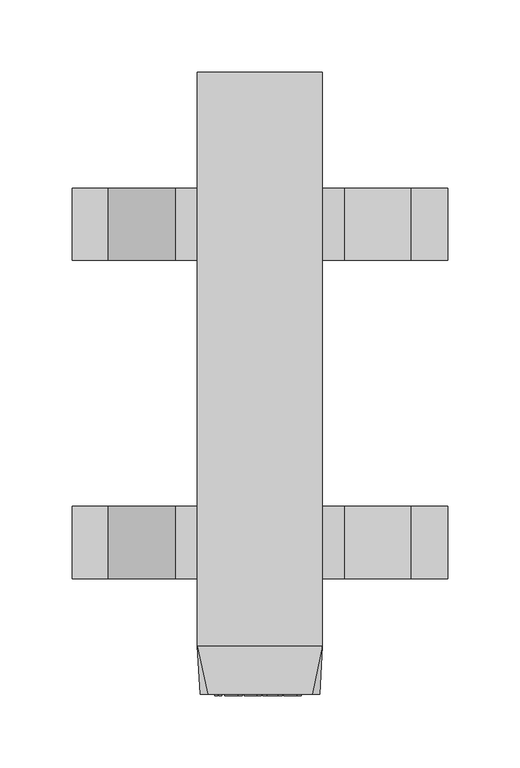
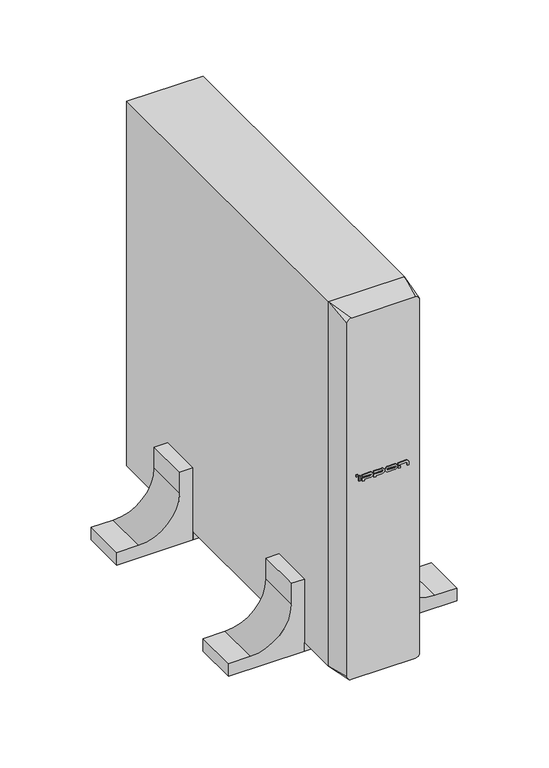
"""IFC4 building model written with IfcOpenShell, lengths in millimetres: proxy geometry, IPPON_EBM_Smart Winner II_1500_2000_2000E_3000ВА : EBM Smart Winner II 1500 ВА."""

from ifc_helpers import new_model, si_unit, point, frame, frame_2d, origin, origin_with_axes, place, context, project, spatial, polyline, circle_curve, trimmed, segment, composite_curve, outline, extrude, source, transform, mapped, element, save
from ifc_brep_helpers import plane_surface, spline_surface, advanced_brep


def electrical_equipment_8a4f9bc7(model_context):
    return source(origin(), model_context, "Body", "SolidModel", [
        extrude(outline(polyline([(-29.1718133, -1.0), (-31.1718133, -1.0), (-31.1718133, 0.0), (-29.1718133, 0.0), (-29.1718133, -1.0)])), frame((0.0, 0.0, 253.8445835), z_axis=(0.0, 0.0, 1.0), x_axis=(1.0, 0.0, 0.0)), (0.0, 0.0, 1.0), 2.3),
        extrude(outline(polyline([(18.6035474, -1.0), (16.6035474, -1.0), (16.6035474, 0.0), (18.6035474, 0.0), (18.6035474, -1.0)])), frame((0.0, 0.0, 247.8445835), z_axis=(0.0, 0.0, 1.0), x_axis=(1.0, 0.0, 0.0)), (0.0, 0.0, 1.0), 2.2268231),
        extrude(outline(polyline([(-26.438565, -1.0), (-28.4833324, -1.0), (-28.4833324, 0.0), (-26.438565, 0.0), (-26.438565, -1.0)])), frame((0.0, 0.0, 247.8445835), z_axis=(0.0, 0.0, 1.0), x_axis=(1.0, 0.0, 0.0)), (0.0, 0.0, 1.0), 6.0),
        extrude(outline(composite_curve([segment(polyline([(251.5821435, -24.2241109), (251.5821435, -14.9923536)]), True, "CONTINUOUS"), segment(trimmed(circle_curve(frame_2d((250.7256642, -14.9923536)), 0.8564793), [point((251.5821435, -14.9923536))], [point((249.8691849, -14.9923536))], True, "CARTESIAN"), True, "CONTINUOUS"), segment(polyline([(249.8691849, -14.9923536), (249.8691849, -24.2241109), (246.3786803, -24.2241109), (246.3786803, -22.2241109), (247.8445835, -22.2241109), (247.8445835, -15.1486036)]), True, "CONTINUOUS"), segment(trimmed(circle_curve(frame_2d((250.8445835, -15.1486036)), 3.0), [point((247.8445835, -15.1486036))], [point((253.8445835, -15.1486036))], False, "CARTESIAN"), True, "CONTINUOUS"), segment(polyline([(253.8445835, -15.1486036), (253.8445835, -24.2241109), (251.5821435, -24.2241109)]), True, "CONTINUOUS")], self_intersect=False)), frame((0.0, -1.0, 0.0), z_axis=(0.0, 1.0, 0.0), x_axis=(0.0, 0.0, 1.0)), (0.0, 0.0, 1.0), 1.0),
        extrude(outline(composite_curve([segment(polyline([(251.5821435, -11.0171091), (251.5821435, -1.7853518)]), True, "CONTINUOUS"), segment(trimmed(circle_curve(frame_2d((250.7256642, -1.7853518)), 0.8564793), [point((251.5821435, -1.7853518))], [point((249.8691849, -1.7853518))], True, "CARTESIAN"), True, "CONTINUOUS"), segment(polyline([(249.8691849, -1.7853518), (249.8691849, -11.0171091), (246.3786803, -11.0171091), (246.3786803, -9.0171091), (247.8445835, -9.0171091), (247.8445835, -1.9416018)]), True, "CONTINUOUS"), segment(trimmed(circle_curve(frame_2d((250.8445835, -1.9416018)), 3.0), [point((247.8445835, -1.9416018))], [point((253.8445835, -1.9416018))], False, "CARTESIAN"), True, "CONTINUOUS"), segment(polyline([(253.8445835, -1.9416018), (253.8445835, -11.0171091), (251.5821435, -11.0171091)]), True, "CONTINUOUS")], self_intersect=False)), frame((0.0, -1.0, 0.0), z_axis=(0.0, 1.0, 0.0), x_axis=(0.0, 0.0, 1.0)), (0.0, 0.0, 1.0), 1.0),
        extrude(outline(composite_curve([segment(trimmed(circle_curve(frame_2d((250.8445835, 12.558657)), 3.0), [point((247.8445835, 12.558657))], [point((253.8445835, 12.558657))], False, "CARTESIAN"), True, "CONTINUOUS"), segment(polyline([(253.8445835, 12.558657), (253.8445835, 4.958657)]), True, "CONTINUOUS"), segment(trimmed(circle_curve(frame_2d((250.8445835, 4.958657)), 3.0), [point((253.8445835, 4.958657))], [point((247.8445835, 4.958657))], False, "CARTESIAN"), True, "CONTINUOUS"), segment(polyline([(247.8445835, 4.958657), (247.8445835, 12.558657)]), True, "CONTINUOUS")], self_intersect=False), holes=[composite_curve([segment(polyline([(249.8691849, 12.714907), (249.8691849, 4.802407)]), True, "CONTINUOUS"), segment(trimmed(circle_curve(frame_2d((250.7256642, 4.802407)), 0.8564793), [point((249.8691849, 4.802407))], [point((251.5821435, 4.802407))], True, "CARTESIAN"), True, "CONTINUOUS"), segment(polyline([(251.5821435, 4.802407), (251.5821435, 12.714907)]), True, "CONTINUOUS"), segment(trimmed(circle_curve(frame_2d((250.7256642, 12.714907)), 0.8564793), [point((251.5821435, 12.714907))], [point((249.8691849, 12.714907))], True, "CARTESIAN"), True, "CONTINUOUS")], self_intersect=False)]), frame((0.0, -1.0, 0.0), z_axis=(0.0, 1.0, 0.0), x_axis=(0.0, 0.0, 1.0)), (0.0, 0.0, 1.0), 1.0),
        extrude(outline(composite_curve([segment(polyline([(251.5821435, 16.6035474), (251.5821435, 25.8353046)]), True, "CONTINUOUS"), segment(trimmed(circle_curve(frame_2d((250.7256642, 25.8353046)), 0.8564793), [point((251.5821435, 25.8353046))], [point((250.7256642, 26.6917839))], True, "CARTESIAN"), True, "CONTINUOUS"), segment(polyline([(250.7256642, 26.6917839), (247.8445835, 26.6917839), (247.8445835, 28.6317921), (251.375, 28.6317921)]), True, "CONTINUOUS"), segment(trimmed(circle_curve(frame_2d((250.8445835, 25.6790546)), 3.0), [point((251.375, 28.6317921))], [point((253.8445835, 25.6790546))], False, "CARTESIAN"), True, "CONTINUOUS"), segment(polyline([(253.8445835, 25.6790546), (253.8445835, 16.6035474), (251.5821435, 16.6035474)]), True, "CONTINUOUS")], self_intersect=False)), frame((0.0, -1.0, 0.0), z_axis=(0.0, 1.0, 0.0), x_axis=(0.0, 0.0, 1.0)), (0.0, 0.0, 1.0), 1.0),
        extrude(outline(polyline([(-43.25, 350.0), (43.25, 350.0), (43.25, 300.0), (-43.25, 300.0), (-43.25, 350.0)])), origin_with_axes(), (0.0, 0.0, 1.0), 10.0),
        extrude(outline(polyline([(43.25, 80.0), (-43.25, 80.0), (-43.25, 130.0), (43.25, 130.0), (43.25, 80.0)])), origin_with_axes(), (0.0, 0.0, 1.0), 10.0),
        extrude(outline(composite_curve([segment(polyline([(0.0, -43.25), (86.5, -43.25), (86.5, -58.25), (61.5, -58.25)]), True, "CONTINUOUS"), segment(trimmed(circle_curve(frame_2d((61.5, -104.75)), 46.5), [point((61.5, -58.25))], [point((15.0, -104.75))], True, "CARTESIAN"), True, "CONTINUOUS"), segment(polyline([(15.0, -104.75), (15.0, -129.75), (0.0, -129.75), (0.0, -43.25)]), True, "CONTINUOUS")], self_intersect=False)), frame((0.0, 300.0, 0.0), z_axis=(0.0, 1.0, 0.0), x_axis=(0.0, 0.0, 1.0)), (0.0, 0.0, 1.0), 50.0),
        extrude(outline(composite_curve([segment(polyline([(0.0, -43.25), (86.5, -43.25), (86.5, -58.25), (61.5, -58.25)]), True, "CONTINUOUS"), segment(trimmed(circle_curve(frame_2d((61.5, -104.75)), 46.5), [point((61.5, -58.25))], [point((15.0, -104.75))], True, "CARTESIAN"), True, "CONTINUOUS"), segment(polyline([(15.0, -104.75), (15.0, -129.75), (0.0, -129.75), (0.0, -43.25)]), True, "CONTINUOUS")], self_intersect=False)), frame((0.0, 80.0, 0.0), z_axis=(0.0, 1.0, 0.0), x_axis=(0.0, 0.0, 1.0)), (0.0, 0.0, 1.0), 50.0),
        extrude(outline(composite_curve([segment(polyline([(0.0, 129.75), (15.0, 129.75), (15.0, 104.75)]), True, "CONTINUOUS"), segment(trimmed(circle_curve(frame_2d((61.5, 104.75)), 46.5), [point((15.0, 104.75))], [point((61.5, 58.25))], True, "CARTESIAN"), True, "CONTINUOUS"), segment(polyline([(61.5, 58.25), (86.5, 58.25), (86.5, 43.25), (0.0, 43.25), (0.0, 129.75)]), True, "CONTINUOUS")], self_intersect=False)), frame((0.0, 300.0, 0.0), z_axis=(0.0, 1.0, 0.0), x_axis=(0.0, 0.0, 1.0)), (0.0, 0.0, 1.0), 50.0),
        extrude(outline(composite_curve([segment(polyline([(0.0, 43.25), (0.0, 129.75), (15.0, 129.75), (15.0, 104.75)]), True, "CONTINUOUS"), segment(trimmed(circle_curve(frame_2d((61.5, 104.75)), 46.5), [point((15.0, 104.75))], [point((61.5, 58.25))], True, "CARTESIAN"), True, "CONTINUOUS"), segment(polyline([(61.5, 58.25), (86.5, 58.25), (86.5, 43.25), (0.0, 43.25)]), True, "CONTINUOUS")], self_intersect=False)), frame((0.0, 80.0, 0.0), z_axis=(0.0, 1.0, 0.0), x_axis=(0.0, 0.0, 1.0)), (0.0, 0.0, 1.0), 50.0),
        advanced_brep(
        [(36.25, 0.0, 12.0), (41.25, 0.0, 17.0), (41.25, 0.0, 441.0), (36.25, 0.0, 446.0), (-36.25, 0.0, 446.0), (-41.25, 0.0, 441.0), (-41.25, 0.0, 17.0), (-36.25, 0.0, 12.0), (43.25, 33.0, 10.0), (-43.25, 33.0, 10.0), (-43.25, 33.0, 448.0), (43.25, 33.0, 448.0)],
        [
            (0, 1, circle_curve(frame((36.25, 0.0, 17.0), z_axis=(0.0, -1.0, 0.0), x_axis=(-1.0, 0.0, 0.0)), 5.0)),
            (1, 2),
            (2, 3, circle_curve(frame((36.25, 0.0, 441.0), z_axis=(0.0, -1.0, 0.0), x_axis=(-1.0, 0.0, 0.0)), 5.0)),
            (3, 4),
            (4, 5, circle_curve(frame((-36.25, 0.0, 441.0), z_axis=(0.0, -1.0, 0.0), x_axis=(-1.0, 0.0, 0.0)), 5.0)),
            (5, 6),
            (6, 7, circle_curve(frame((-36.25, 0.0, 17.0), z_axis=(0.0, -1.0, 0.0), x_axis=(-1.0, 0.0, 0.0)), 5.0)),
            (7, 0),
            (8, 9),
            (9, 10),
            (10, 11),
            (11, 8),
            (0, 8),
            (8, 1),
            (7, 9),
            (6, 9),
            (5, 10),
            (4, 10),
            (3, 11),
            (2, 11),
        ],
        [
            plane_surface(frame((0.0, 0.0, 229.0), z_axis=(0.0, -1.0, 0.0), x_axis=(1.0, 0.0, 0.0))),
            plane_surface(frame((0.0, 33.0, 229.0), z_axis=(0.0, 1.0, 0.0), x_axis=(1.0, 0.0, 0.0))),
            spline_surface(2, 1, [[(43.25, 33.0, 10.0), (36.25, 0.0, 12.0)], [(43.25, 33.0, 10.0), (41.25, 0.0, 12.0)], [(43.25, 33.0, 10.0), (41.25, 0.0, 17.0)]], [3, 3], [2, 2], [0.0, 1.0], [0.0, 1.0], weights=[[1.0, 1.0], [0.7071067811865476, 0.7071067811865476], [1.0, 1.0]]),
            plane_surface(frame((0.0, 33.0, 10.0), z_axis=(0.0, -0.060495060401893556, -0.9981684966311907), x_axis=(1.0, 0.0, 0.0))),
            spline_surface(2, 1, [[(-43.25, 33.0, 10.0), (-41.25, 0.0, 17.0)], [(-43.25, 33.0, 10.0), (-41.25, 0.0, 12.0)], [(-43.25, 33.0, 10.0), (-36.25, 0.0, 12.0)]], [3, 3], [2, 2], [0.0, 1.0], [0.0, 1.0], weights=[[1.0, 1.0], [0.7071067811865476, 0.7071067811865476], [1.0, 1.0]]),
            plane_surface(frame((-43.25, 33.0, 229.0), z_axis=(-0.998168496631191, -0.06049506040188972, 0.0), x_axis=(0.0, 0.0, -1.0))),
            spline_surface(2, 1, [[(-43.25, 33.0, 448.0), (-36.25, 0.0, 446.0)], [(-43.25, 33.0, 448.0), (-41.25, 0.0, 446.0)], [(-43.25, 33.0, 448.0), (-41.25, 0.0, 441.0)]], [3, 3], [2, 2], [0.0, 1.0], [0.0, 1.0], weights=[[1.0, 1.0], [0.7071067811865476, 0.7071067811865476], [1.0, 1.0]]),
            plane_surface(frame((0.0, 33.0, 448.0), z_axis=(0.0, -0.06049506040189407, 0.9981684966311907), x_axis=(-1.0, 0.0, 0.0))),
            spline_surface(2, 1, [[(43.25, 33.0, 448.0), (41.25, 0.0, 441.0)], [(43.25, 33.0, 448.0), (41.25, 0.0, 446.0)], [(43.25, 33.0, 448.0), (36.25, 0.0, 446.0)]], [3, 3], [2, 2], [0.0, 1.0], [0.0, 1.0], weights=[[1.0, 1.0], [0.7071067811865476, 0.7071067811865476], [1.0, 1.0]]),
            plane_surface(frame((43.25, 33.0, 229.0), z_axis=(0.9981684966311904, -0.06049506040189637, 0.0), x_axis=(0.0, 0.0, 1.0))),
        ],
        [
            (0, [[1, 2, 3, 4, 5, 6, 7, 8]]),
            (1, [[9, 10, 11, 12]]),
            (2, [[-1, 13, 14]]),
            (3, [[-9, -13, -8, 15]]),
            (4, [[-7, 16, -15]]),
            (5, [[-10, -16, -6, 17]]),
            (6, [[-5, 18, -17]]),
            (7, [[-11, -18, -4, 19]]),
            (8, [[-3, 20, -19]]),
            (9, [[-12, -20, -2, -14]]),
        ],
    ),
        extrude(outline(polyline([(43.25, 33.0), (-43.25, 33.0), (-43.25, 430.0), (43.25, 430.0), (43.25, 33.0)])), frame((0.0, 0.0, 10.0), z_axis=(0.0, 0.0, 1.0), x_axis=(1.0, 0.0, 0.0)), (0.0, 0.0, 1.0), 438.0),
    ])


if __name__ == "__main__":
    model = new_model("IFC4")
    model_context = context("Model", 3, world=origin())
    ifc_project = project(units=[si_unit("LENGTHUNIT", "METRE", prefix="MILLI")], contexts=[model_context])
    site = spatial("IfcSite", under=ifc_project)
    building = spatial("IfcBuilding", under=site)
    placement = place(None, origin())
    electrical_equipment_shape = electrical_equipment_8a4f9bc7(model_context)
    element("IfcBuildingElementProxy", 1, Name="IPPON_EBM_Smart Winner II_1500_2000_2000E_3000ВА : EBM Smart Winner II 1500 ВА", ObjectType="IPPON_EBM_Smart Winner II_1500_2000_2000E_3000ВА : EBM Smart Winner II 1500 ВА", at=placement, inside=building, context=model_context, shape_type="MappedRepresentation", body=[
        mapped(electrical_equipment_shape, transform((0.0, 0.0, 0.0), x_axis=(1.0, 0.0, 0.0), y_axis=(0.0, 1.0, 0.0), z_axis=(0.0, 0.0, 1.0))),
    ])
    save(model, "model.ifc")
